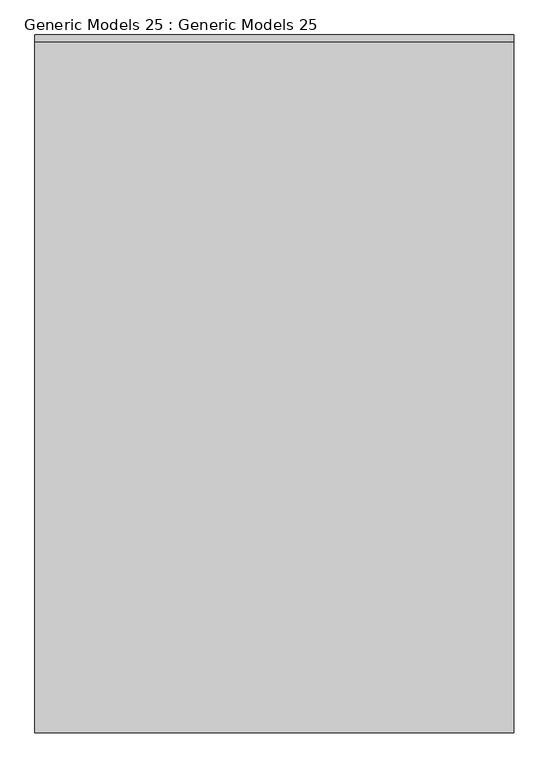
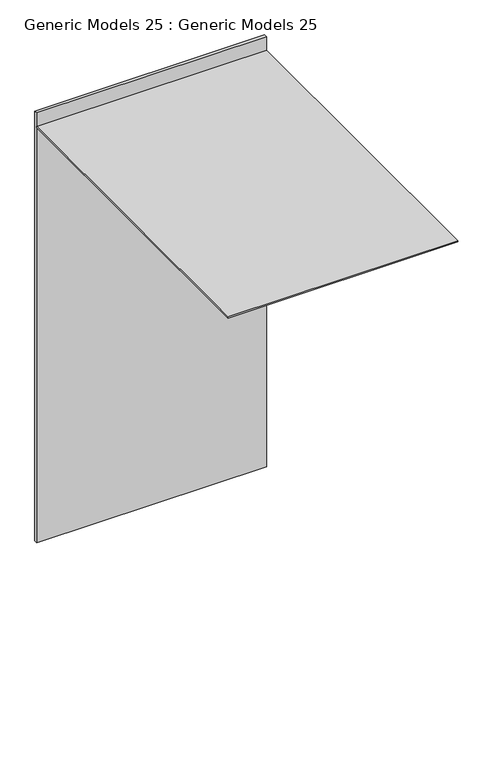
"""IFC4 building model written with IfcOpenShell, lengths in millimetres: proxy geometry, Generic Models 25 : Generic Models 25."""

from ifc_helpers import new_model, si_unit, frame, origin, origin_with_axes, place, context, project, spatial, polyline, outline, extrude, source, transform, mapped, element, save


def generic_models_25_generic_models_25_5dc60e3b(model_context):
    return source(origin(), model_context, "Body", "SweptSolid", [
        extrude(outline(polyline([(-11418.5171482, 7675.8371468), (-3468.5171482, 7675.8371468), (-3468.5171482, -3799.4449025), (-11418.5171482, -3799.4449025), (-11418.5171482, 7675.8371468)])), frame((0.0, 0.0, 15176.4804471), z_axis=(0.0, 0.0, 1.0), x_axis=(1.0, 0.0, 0.0)), (0.0, 0.0, 1.0), 49.4672431),
        extrude(outline(polyline([(-11418.5171482, 7786.4319424), (-3468.5171482, 7786.4319424), (-3468.5171482, 7675.8371468), (-11418.5171482, 7675.8371468), (-11418.5171482, 7786.4319424)])), origin_with_axes(), (0.0, 0.0, 1.0), 15723.9),
    ])


if __name__ == "__main__":
    model = new_model("IFC4")
    model_context = context("Model", 3, world=origin())
    ifc_project = project(units=[si_unit("LENGTHUNIT", "METRE", prefix="MILLI")], contexts=[model_context])
    site = spatial("IfcSite", under=ifc_project)
    building = spatial("IfcBuilding", under=site)
    placement = place(None, origin())
    generic_models_25_generic_models_25_shape = generic_models_25_generic_models_25_5dc60e3b(model_context)
    element("IfcBuildingElementProxy", 1, Name="Generic Models 25 : Generic Models 25", ObjectType="Generic Models 25 : Generic Models 25", at=placement, inside=building, context=model_context, shape_type="MappedRepresentation", body=[
        mapped(generic_models_25_generic_models_25_shape, transform((0.0, 0.0, 0.0), x_axis=(1.0, 0.0, 0.0), y_axis=(0.0, 1.0, 0.0), z_axis=(0.0, 0.0, 1.0))),
    ])
    save(model, "model.ifc")
